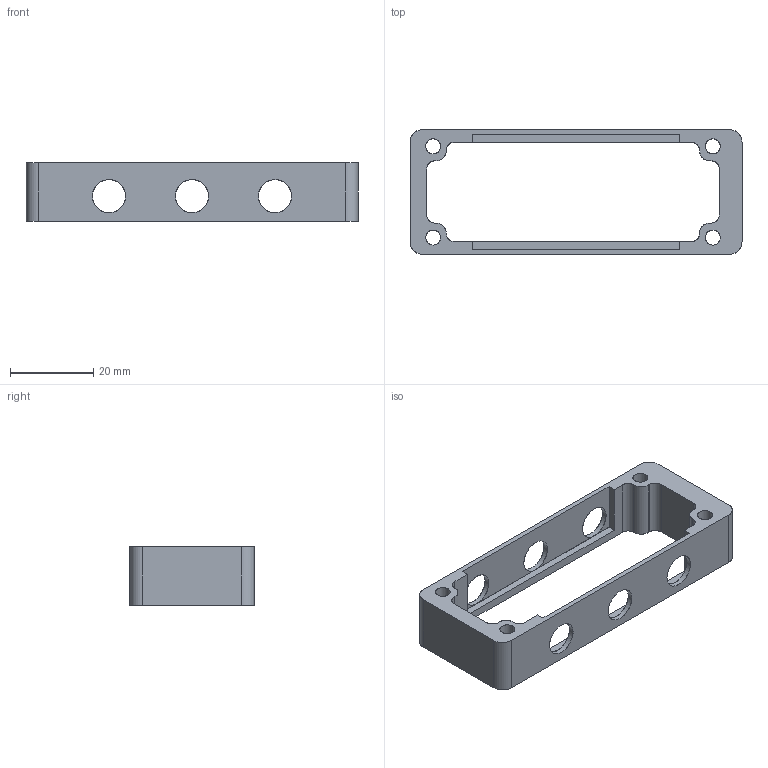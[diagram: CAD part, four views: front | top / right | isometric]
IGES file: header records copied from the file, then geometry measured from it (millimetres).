
Global section: file name: C:\Users\gehrichcr\Documents\1 Drive Backup\Practice\Inspire\V1.5\IGES\Frame Motor ESC Box RCCAM.igs; native system: NX V8.5; preprocessor: SIEMENS PLM Software NX 8.5; date: 20150619.121326; units: millimetre
Bounding box: 80 x 30 x 14 mm (x, y, z)
Surface area: 7312.6 mm2 (no closed solid volume)
Topology: 0 solids, 0 shells, 61 faces, 537 edges, 522 vertices
Faces by surface type: bspline 61
